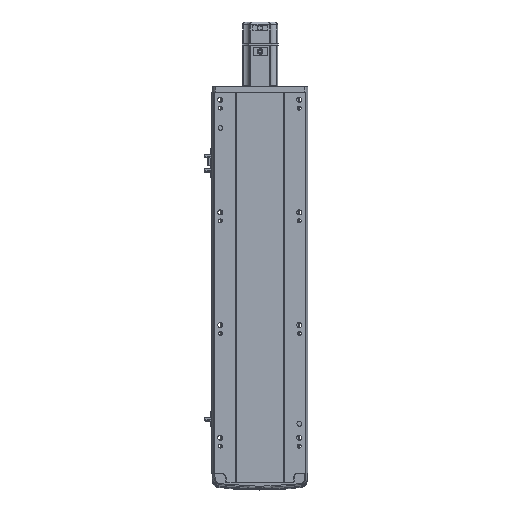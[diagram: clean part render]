
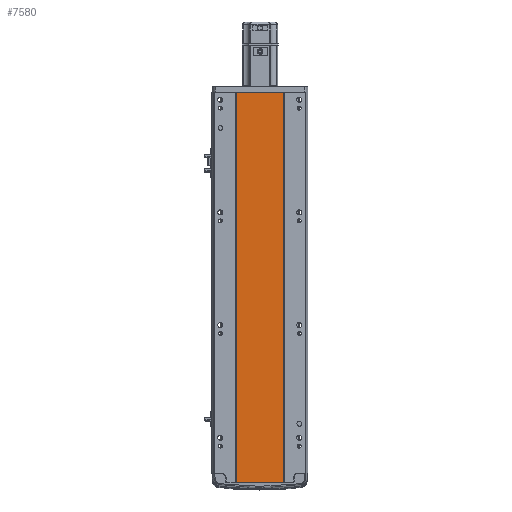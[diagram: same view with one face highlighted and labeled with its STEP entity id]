
A CAD part, front view. The second image highlights one B-rep face of the part: STEP entity #7580.
In plain terms, the highlighted planar face has unit normal (0, -1, 0).
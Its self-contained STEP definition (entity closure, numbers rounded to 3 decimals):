
#3224 = CARTESIAN_POINT ( 'NONE',  ( -41.791, 1., 693.5 ) ) ;
#6241 = LINE ( 'NONE', #30972, #44823 ) ;
#7580 = ADVANCED_FACE ( 'NONE', ( #44620 ), #45538, .F. ) ;
#7844 = CARTESIAN_POINT ( 'NONE',  ( 0., 0.999, 693.5 ) ) ;
#8346 = LINE ( 'NONE', #14202, #16529 ) ;
#8384 = LINE ( 'NONE', #37723, #11914 ) ;
#8435 = AXIS2_PLACEMENT_3D ( 'NONE', #15340, #26927, #30684 ) ;
#10323 = ORIENTED_EDGE ( 'NONE', *, *, #27835, .T. ) ;
#11914 = VECTOR ( 'NONE', #15342, 1000. ) ;
#13888 = DIRECTION ( 'NONE',  ( 0., 0., -1. ) ) ;
#13915 = VERTEX_POINT ( 'NONE', #47553 ) ;
#14202 = CARTESIAN_POINT ( 'NONE',  ( -41.791, 1., 693.5 ) ) ;
#15340 = CARTESIAN_POINT ( 'NONE',  ( 0., 0.999, 693.5 ) ) ;
#15342 = DIRECTION ( 'NONE',  ( 0., 0., -1. ) ) ;
#15578 = ORIENTED_EDGE ( 'NONE', *, *, #27150, .F. ) ;
#16529 = VECTOR ( 'NONE', #13888, 1000. ) ;
#18572 = VERTEX_POINT ( 'NONE', #27598 ) ;
#21694 = VECTOR ( 'NONE', #37407, 1000. ) ;
#26927 = DIRECTION ( 'NONE',  ( 0., 1., 0. ) ) ;
#27150 = EDGE_CURVE ( 'NONE', #18572, #28943, #8384, .T. ) ;
#27598 = CARTESIAN_POINT ( 'NONE',  ( 41.793, 0.998, 693.5 ) ) ;
#27835 = EDGE_CURVE ( 'NONE', #45288, #13915, #8346, .T. ) ;
#28943 = VERTEX_POINT ( 'NONE', #48282 ) ;
#29704 = ORIENTED_EDGE ( 'NONE', *, *, #36646, .T. ) ;
#29835 = EDGE_CURVE ( 'NONE', #45288, #18572, #46823, .T. ) ;
#30684 = DIRECTION ( 'NONE',  ( -1., 0., 0. ) ) ;
#30972 = CARTESIAN_POINT ( 'NONE',  ( 0., 0.999, 0. ) ) ;
#34569 = DIRECTION ( 'NONE',  ( 1., 0., 0. ) ) ;
#36646 = EDGE_CURVE ( 'NONE', #13915, #28943, #6241, .T. ) ;
#37407 = DIRECTION ( 'NONE',  ( 1., 0., 0. ) ) ;
#37723 = CARTESIAN_POINT ( 'NONE',  ( 41.793, 0.998, 693.5 ) ) ;
#40703 = EDGE_LOOP ( 'NONE', ( #29704, #15578, #47772, #10323 ) ) ;
#44620 = FACE_OUTER_BOUND ( 'NONE', #40703, .T. ) ;
#44823 = VECTOR ( 'NONE', #34569, 1000. ) ;
#45288 = VERTEX_POINT ( 'NONE', #3224 ) ;
#45538 = PLANE ( 'NONE',  #8435 ) ;
#46823 = LINE ( 'NONE', #7844, #21694 ) ;
#47553 = CARTESIAN_POINT ( 'NONE',  ( -41.791, 1., 0. ) ) ;
#47772 = ORIENTED_EDGE ( 'NONE', *, *, #29835, .F. ) ;
#48282 = CARTESIAN_POINT ( 'NONE',  ( 41.793, 0.998, 0. ) ) ;
